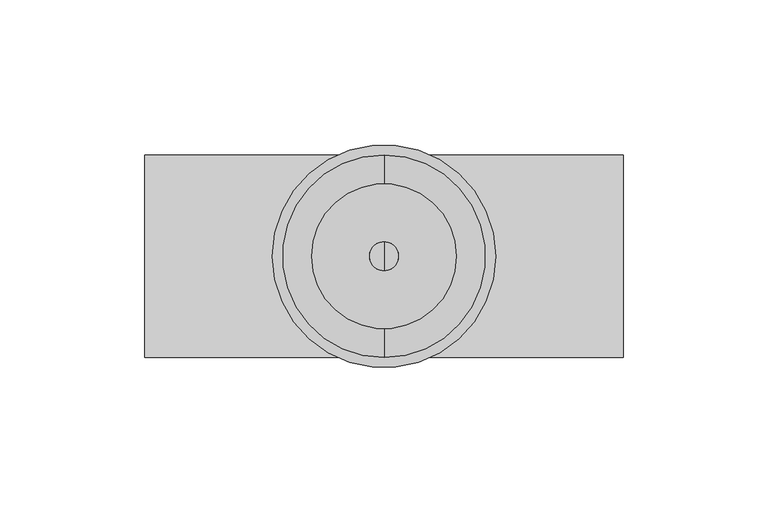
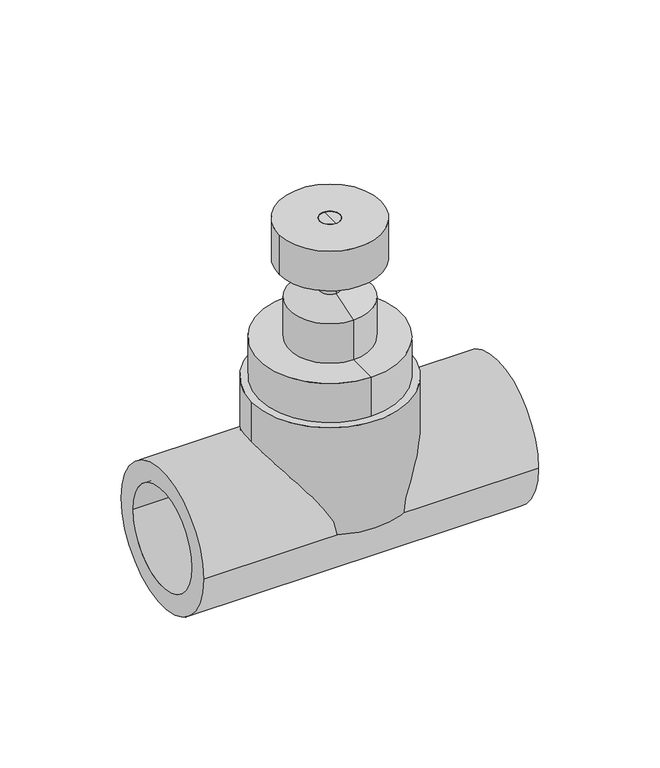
"""IFC4 building model written with IfcOpenShell, lengths in millimetres: valve geometry, EGB_VASEN_ PPR_Valvula de corte con volante WXR830 : Válvula de corte con volante WXR830."""

from ifc_helpers import new_model, si_unit, point, frame, origin, origin_with_axes, origin_2d, place, context, project, spatial, polyline, circle_curve, trimmed, segment, composite_curve, outline, extrude, source, transform, mapped, element, save
from ifc_brep_helpers import plane_surface, cylinder_surface, revolved_surface, advanced_brep


def valve_124c32d3(model_context):
    return source(origin(), model_context, "Body", "SolidModel", [
        extrude(outline(composite_curve([segment(trimmed(circle_curve(origin_2d(), 38.5), [point((-38.5, 0.0))], [point((38.5, 0.0))], False, "CARTESIAN"), True, "CONTINUOUS"), segment(trimmed(circle_curve(origin_2d(), 38.5), [point((38.5, 0.0))], [point((-38.5, 0.0))], False, "CARTESIAN"), True, "CONTINUOUS")], self_intersect=False)), origin_with_axes(), (0.0, 0.0, 1.0), 55.6),
        extrude(outline(composite_curve([segment(trimmed(circle_curve(origin_2d(), 35.0), [point((-35.0, 0.0))], [point((35.0, 0.0))], False, "CARTESIAN"), True, "CONTINUOUS"), segment(trimmed(circle_curve(origin_2d(), 35.0), [point((35.0, 0.0))], [point((-35.0, 0.0))], False, "CARTESIAN"), True, "CONTINUOUS")], self_intersect=False), holes=[composite_curve([segment(trimmed(circle_curve(origin_2d(), 25.0), [point((-25.0, 0.0))], [point((25.0, 0.0))], True, "CARTESIAN"), True, "CONTINUOUS"), segment(trimmed(circle_curve(origin_2d(), 25.0), [point((25.0, 0.0))], [point((-25.0, 0.0))], True, "CARTESIAN"), True, "CONTINUOUS")], self_intersect=False)]), frame((-82.5, 0.0, 0.0), z_axis=(1.0, 0.0, 0.0), x_axis=(0.0, 1.0, 0.0)), (0.0, 0.0, 1.0), 165.0),
        extrude(outline(composite_curve([segment(trimmed(circle_curve(origin_2d(), 25.0), [point((25.0, 0.0))], [point((-25.0, 0.0))], False, "CARTESIAN"), True, "CONTINUOUS"), segment(trimmed(circle_curve(origin_2d(), 25.0), [point((-25.0, 0.0))], [point((25.0, 0.0))], False, "CARTESIAN"), True, "CONTINUOUS")], self_intersect=False), holes=[composite_curve([segment(trimmed(circle_curve(origin_2d(), 5.0), [point((5.0, 0.0))], [point((-5.0, 0.0))], True, "CARTESIAN"), True, "CONTINUOUS"), segment(trimmed(circle_curve(origin_2d(), 5.0), [point((-5.0, 0.0))], [point((5.0, 0.0))], True, "CARTESIAN"), True, "CONTINUOUS")], self_intersect=False)]), frame((0.0, 0.0, 117.4), z_axis=(0.0, 0.0, 1.0), x_axis=(1.0, 0.0, 0.0)), (0.0, 0.0, 1.0), 20.6),
        advanced_brep(
        [(0.0, -20.0, 76.2), (0.0, 20.0, 76.2), (0.0, 35.0, 76.2), (0.0, -35.0, 76.2), (0.0, -20.0, 96.8), (0.0, 20.0, 96.8), (0.0, -5.0, 101.5272839), (0.0, 5.0, 101.5272839), (0.0, -5.0, 138.0), (0.0, 5.0, 138.0), (0.0, 0.0, 138.0), (0.0, -35.0, 55.6), (0.0, 35.0, 55.6), (0.0, 0.0, 55.6)],
        [
            (0, 1, circle_curve(frame((0.0, 0.0, 76.2), z_axis=(0.0, 0.0, -1.0), x_axis=(0.0, 1.0, 0.0)), 20.0)),
            (1, 2),
            (2, 3, circle_curve(frame((0.0, 0.0, 76.2), z_axis=(0.0, 0.0, 1.0), x_axis=(0.0, 1.0, 0.0)), 35.0)),
            (3, 0),
            (1, 0, circle_curve(frame((0.0, 0.0, 76.2), z_axis=(0.0, 0.0, -1.0), x_axis=(0.0, 1.0, 0.0)), 20.0)),
            (3, 2, circle_curve(frame((0.0, 0.0, 76.2), z_axis=(0.0, 0.0, 1.0), x_axis=(0.0, 1.0, 0.0)), 35.0)),
            (4, 5, circle_curve(frame((0.0, 0.0, 96.8), z_axis=(0.0, 0.0, -1.0), x_axis=(0.0, 1.0, 0.0)), 20.0)),
            (5, 1),
            (0, 4),
            (5, 4, circle_curve(frame((0.0, 0.0, 96.8), z_axis=(0.0, 0.0, -1.0), x_axis=(0.0, 1.0, 0.0)), 20.0)),
            (6, 7, circle_curve(frame((0.0, 0.0, 101.5272839), z_axis=(0.0, 0.0, -1.0), x_axis=(0.0, 1.0, 0.0)), 5.0)),
            (7, 5),
            (4, 6),
            (7, 6, circle_curve(frame((0.0, 0.0, 101.5272839), z_axis=(0.0, 0.0, -1.0), x_axis=(0.0, 1.0, 0.0)), 5.0)),
            (8, 9, circle_curve(frame((0.0, 0.0, 138.0), z_axis=(0.0, 0.0, -1.0), x_axis=(0.0, 1.0, 0.0)), 5.0)),
            (9, 7),
            (6, 8),
            (9, 8, circle_curve(frame((0.0, 0.0, 138.0), z_axis=(0.0, 0.0, -1.0), x_axis=(0.0, 1.0, 0.0)), 5.0)),
            (10, 9),
            (8, 10),
            (11, 12, circle_curve(frame((0.0, 0.0, 55.6), z_axis=(0.0, 0.0, -1.0), x_axis=(0.0, 1.0, 0.0)), 35.0)),
            (12, 13),
            (13, 11),
            (12, 11, circle_curve(frame((0.0, 0.0, 55.6), z_axis=(0.0, 0.0, -1.0), x_axis=(0.0, 1.0, 0.0)), 35.0)),
            (2, 12),
            (11, 3),
        ],
        [
            plane_surface(frame((0.0, 0.0, 76.2), z_axis=(0.0, 0.0, 1.0), x_axis=(0.0, 1.0, 0.0))),
            cylinder_surface(frame((0.0, 0.0, 153.0), z_axis=(0.0, 0.0, 1.0), x_axis=(0.0, 1.0, 0.0)), 20.0),
            revolved_surface(polyline([(0.0, 20.0, 96.8), (0.0, 5.0, 101.5272839)]), (0.0, 0.0, 153.0), (0.0, 0.0, 1.0)),
            cylinder_surface(frame((0.0, 0.0, 153.0), z_axis=(0.0, 0.0, 1.0), x_axis=(0.0, 1.0, 0.0)), 5.0),
            plane_surface(frame((0.0, 0.0, 138.0), z_axis=(0.0, 0.0, 1.0), x_axis=(0.0, 1.0, 0.0))),
            plane_surface(frame((0.0, 0.0, 55.6), z_axis=(0.0, 0.0, -1.0), x_axis=(0.0, 1.0, 0.0))),
            cylinder_surface(frame((0.0, 0.0, 153.0), z_axis=(0.0, 0.0, 1.0), x_axis=(0.0, 1.0, 0.0)), 35.0),
        ],
        [
            (0, [[1, 2, 3, 4]]),
            (0, [[5, -4, 6, -2]]),
            (1, [[7, 8, -1, 9]]),
            (1, [[10, -9, -5, -8]]),
            (2, [[11, 12, -7, 13]]),
            (2, [[14, -13, -10, -12]]),
            (3, [[15, 16, -11, 17]]),
            (3, [[18, -17, -14, -16]]),
            (4, [[19, -15, 20]]),
            (4, [[-20, -18, -19]]),
            (5, [[21, 22, 23]]),
            (5, [[24, -23, -22]]),
            (6, [[-3, 25, -21, 26]]),
            (6, [[-6, -26, -24, -25]]),
        ],
    ),
    ])


if __name__ == "__main__":
    model = new_model("IFC4")
    model_context = context("Model", 3, world=origin())
    ifc_project = project(units=[si_unit("LENGTHUNIT", "METRE", prefix="MILLI")], contexts=[model_context])
    site = spatial("IfcSite", under=ifc_project)
    building = spatial("IfcBuilding", under=site)
    placement = place(None, origin())
    valve_shape = valve_124c32d3(model_context)
    element("IfcValve", 1, ObjectType="EGB_VASEN_ PPR_Valvula de corte con volante WXR830 : Válvula de corte con volante WXR830", at=placement, inside=building, context=model_context, shape_type="MappedRepresentation", body=[
        mapped(valve_shape, transform((0.0, 0.0, 0.0), x_axis=(1.0, 0.0, 0.0), y_axis=(0.0, 1.0, 0.0), z_axis=(0.0, 0.0, 1.0))),
    ])
    save(model, "model.ifc")
